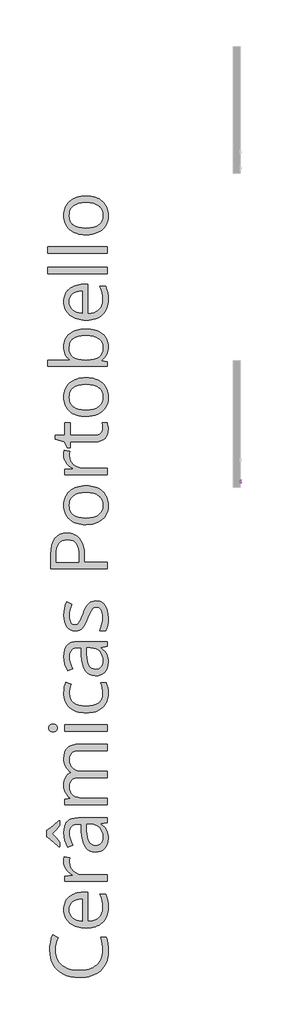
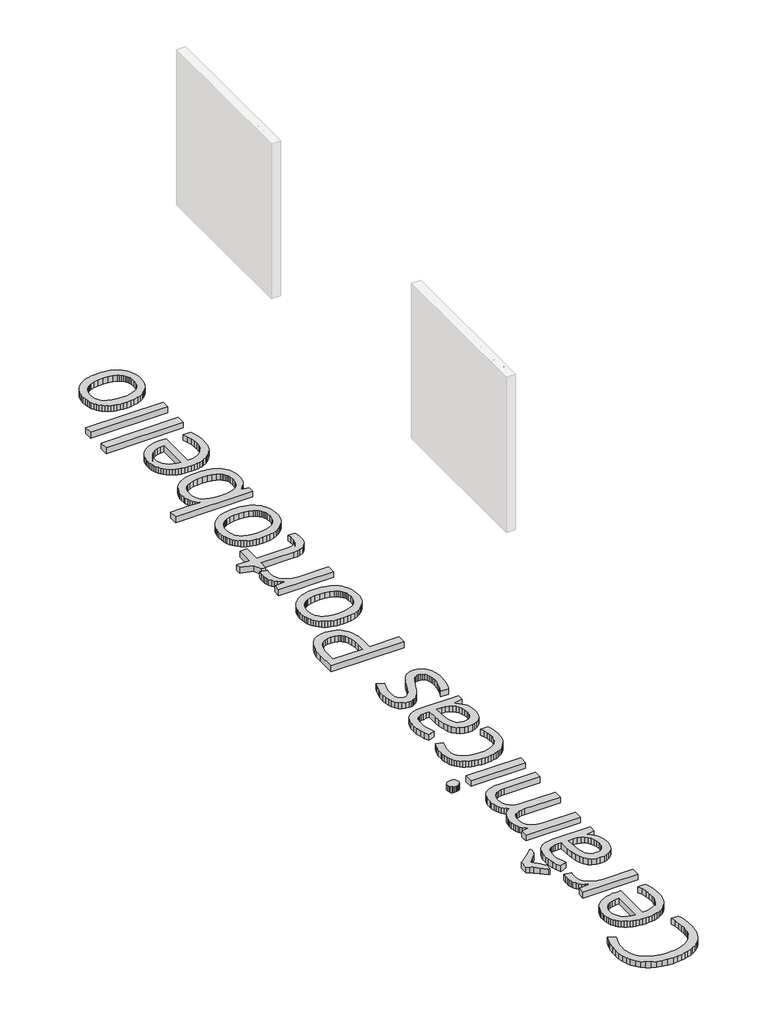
# One storey, part 4 of 7: 2 proxies.
"""IFC4 building model written with IfcOpenShell, lengths in millimetres."""

from ifc_helpers import new_model, si_unit, frame, origin, origin_with_axes, place, context, project, spatial, polyline, outline, extrude, element, save

model = new_model("IFC4")

# Units and contexts
model_context = context("Model", 3, world=origin())
ifc_project = project(units=[si_unit("LENGTHUNIT", "METRE", prefix="MILLI")], contexts=[model_context])

# Site, building, storey
site = spatial("IfcSite", under=ifc_project)
building = spatial("IfcBuilding", under=site)
storey = spatial("IfcBuildingStorey", under=building, Name="PORTOBELLO - SHOWROOM", Elevation=0.0)

# Proxies
placement = place(None, origin())
element("IfcBuildingElementProxy", 1, Name="10mm Arial", ObjectType="10mm Arial", at=placement, inside=storey, context=model_context, shape_type="SweptSolid", body=[
    extrude(outline(polyline([(3753.9778517, 2553.8086596), (3753.9778517, 2654.2649698), (3792.3111556, 2654.2649698), (3811.0854001, 2651.3096511), (3822.1709109, 2642.2229658), (3826.1808246, 2629.3716214), (3822.808573, 2617.6361858), (3812.6182417, 2608.7457042), (3824.9913395, 2599.3769761), (3829.3200843, 2583.754254), (3826.3647656, 2570.2529848), (3819.0439139, 2560.639002), (3808.1178187, 2555.537705), (3792.01685, 2553.8086596), (3753.9778517, 2553.8086596)]), holes=[polyline([(3766.5348905, 2613.4545938), (3789.4662015, 2613.4545938), (3802.8571061, 2614.5337143), (3810.9137218, 2619.1812902), (3813.6237859, 2627.3605332), (3811.0976628, 2635.552039), (3803.8626502, 2640.3958186), (3787.7248934, 2641.707931), (3766.5348905, 2641.707931), (3766.5348905, 2613.4545938)]), polyline([(3766.5348905, 2566.3656984), (3792.2866301, 2566.3656984), (3801.6063073, 2566.8562077), (3809.4912448, 2569.5907972), (3814.7151691, 2575.1703408), (3816.7630455, 2583.6316267), (3814.3595498, 2593.3927623), (3806.5727143, 2599.2175606), (3791.0603568, 2600.897555), (3766.5348905, 2600.897555), (3766.5348905, 2566.3656984)])]), frame((34576.625413, 0.0, 0.0), z_axis=(1.0, 0.0, 0.0), x_axis=(0.0, 1.0, 0.0)), (0.0, 0.0, 1.0), 20.0),
    extrude(outline(polyline([(3845.0163828, 2553.8086596), (3845.0163828, 2627.5812624), (3856.0037917, 2627.5812624), (3856.0037917, 2616.6674299), (3863.80289, 2626.7228711), (3871.6510392, 2629.1508922), (3884.2571289, 2625.2758686), (3880.0632742, 2614.0186795), (3871.2341063, 2616.5938535), (3864.1339838, 2614.1167814), (3859.6090353, 2607.2496508), (3857.5734215, 2592.5834219), (3857.5734215, 2553.8086596), (3845.0163828, 2553.8086596)])), frame((34576.625413, 0.0, 0.0), z_axis=(1.0, 0.0, 0.0), x_axis=(0.0, 1.0, 0.0)), (0.0, 0.0, 1.0), 20.0),
    extrude(outline(polyline([(3939.1941735, 2563.2264387), (3927.0172795, 2554.7161019), (3913.5650612, 2552.2390298), (3903.0712273, 2553.7289519), (3895.330377, 2558.1987181), (3890.5571081, 2564.9861409), (3888.9660185, 2573.4290327), (3891.3695142, 2583.3618466), (3897.6848218, 2590.5723337), (3906.4772014, 2594.692612), (3917.341983, 2596.5810729), (3939.1205971, 2600.897555), (3939.1941735, 2603.6934582), (3935.7360828, 2612.9640844), (3921.8546688, 2616.5938535), (3909.1504773, 2614.178095), (3903.0926871, 2605.6064445), (3890.5356483, 2607.1760744), (3895.9680391, 2619.4388076), (3906.9063971, 2626.6247692), (3923.4733496, 2629.1508922), (3938.6914015, 2626.9190748), (3947.2875774, 2621.3150057), (3951.1380757, 2612.7924062), (3951.7512123, 2601.8049973), (3951.7512123, 2586.1822752), (3952.3888744, 2564.3668729), (3954.890472, 2553.8086596), (3942.3334332, 2553.8086596), (3939.1941735, 2563.2264387)]), holes=[polyline([(3939.1941735, 2588.3405162), (3918.9361383, 2584.490018), (3908.1326704, 2582.4544043), (3903.2398399, 2579.1434664), (3901.5230572, 2574.3119495), (3905.2631909, 2567.5183953), (3916.238337, 2564.7960685), (3928.9425286, 2567.8004382), (3937.1340344, 2575.0722389), (3939.1205971, 2584.7843236), (3939.1941735, 2588.3405162)])]), frame((34576.625413, 0.0, 0.0), z_axis=(1.0, 0.0, 0.0), x_axis=(0.0, 1.0, 0.0)), (0.0, 0.0, 1.0), 20.0),
    extrude(outline(polyline([(3969.0171406, 2553.8086596), (3969.0171406, 2627.5812624), (3981.5741794, 2627.5812624), (3981.5741794, 2617.2805665), (3991.1758995, 2626.1833108), (4004.2847612, 2629.1508922), (4016.1428242, 2626.7596593), (4024.2362281, 2620.4811399), (4028.0008872, 2611.2473018), (4028.6630748, 2599.107196), (4028.6630748, 2553.8086596), (4016.106036, 2553.8086596), (4016.106036, 2597.4149388), (4014.6590335, 2608.524975), (4009.5454738, 2614.3988242), (4000.9247723, 2616.5938535), (3987.3008758, 2611.6642347), (3983.0058535, 2604.5211927), (3981.5741794, 2592.9513039), (3981.5741794, 2553.8086596), (3969.0171406, 2553.8086596)])), frame((34576.625413, 0.0, 0.0), z_axis=(1.0, 0.0, 0.0), x_axis=(0.0, 1.0, 0.0)), (0.0, 0.0, 1.0), 20.0),
    extrude(outline(polyline([(4093.0178985, 2580.492367), (4105.5749372, 2578.9227372), (4102.0739269, 2567.7544529), (4095.4949706, 2559.3146268), (4086.4573362, 2554.007929), (4075.5802919, 2552.2390298), (4062.2231098, 2554.7069048), (4051.7783268, 2562.11053), (4045.0368892, 2574.1249428), (4042.7897434, 2590.4251809), (4046.6279789, 2611.28409), (4058.3266263, 2624.6872574), (4075.4086136, 2629.1508922), (4086.0189435, 2627.6180506), (4094.5016892, 2623.0195257), (4100.5870705, 2615.6005721), (4104.0053074, 2605.6064445), (4091.4482686, 2604.0368147), (4085.6234704, 2613.442331), (4075.5067155, 2616.5938535), (4067.3918518, 2615.0426177), (4060.9508512, 2610.3889105), (4056.7477994, 2602.3813457), (4055.3467822, 2590.7685374), (4056.7171426, 2578.9993792), (4060.8282239, 2570.9642233), (4067.1527285, 2566.3381072), (4075.163359, 2564.7960685), (4086.9968965, 2568.6465668), (4093.0178985, 2580.492367)])), frame((34576.625413, 0.0, 0.0), z_axis=(1.0, 0.0, 0.0), x_axis=(0.0, 1.0, 0.0)), (0.0, 0.0, 1.0), 20.0),
    extrude(outline(polyline([(4113.4230865, 2590.694961), (4116.1392819, 2608.4820555), (4124.287868, 2620.9839119), (4134.355572, 2627.1091472), (4146.4098387, 2629.1508922), (4159.6014739, 2626.6646231), (4170.1382274, 2619.2058156), (4177.0452118, 2607.3630811), (4179.34754, 2591.7250306), (4175.2763126, 2569.3823308), (4163.4182496, 2556.7394529), (4146.4098387, 2552.2390298), (4133.0587879, 2554.7161019), (4122.5342972, 2562.1473182), (4115.7008891, 2574.2383731), (4113.4230865, 2590.694961)]), holes=[polyline([(4125.9801252, 2590.7194865), (4127.4332591, 2579.3549985), (4131.7926607, 2571.2585289), (4138.353223, 2566.4116836), (4146.4098387, 2564.7960685), (4154.4296662, 2566.4208807), (4160.9779657, 2571.2953171), (4165.3373673, 2579.4990856), (4166.7905012, 2591.1118939), (4165.3281703, 2602.1452881), (4160.9411775, 2610.1313931), (4154.3836809, 2614.9782384), (4146.4098387, 2616.5938535), (4138.353223, 2614.9843697), (4131.7926607, 2610.1559186), (4127.4332591, 2602.0778431), (4125.9801252, 2590.7194865)])]), frame((34576.625413, 0.0, 0.0), z_axis=(1.0, 0.0, 0.0), x_axis=(0.0, 1.0, 0.0)), (0.0, 0.0, 1.0), 20.0),
])
element("IfcBuildingElementProxy", 2, Name="1200mm OpenSans", ObjectType="1200mm OpenSans", at=placement, inside=storey, context=model_context, shape_type="SweptSolid", body=[
    extrude(outline(polyline([(30626.5027074, -6209.0740055), (30628.6237547, -6257.2581158), (30634.9868966, -6302.8395068), (30645.5921331, -6345.8181783), (30660.4394642, -6386.1941305), (30679.5288898, -6423.9673632), (30702.8604101, -6459.1378766), (30730.434025, -6491.7056706), (30762.2497345, -6521.6707452), (30797.7554466, -6548.5429779), (30836.3990692, -6571.8322462), (30878.1806025, -6591.5385502), (30923.1000465, -6607.6618898), (30971.157401, -6620.2022651), (31022.3526661, -6629.159676), (31076.6858419, -6634.5341225), (31134.1569282, -6636.3256047), (31193.098382, -6634.5989088), (31248.5977113, -6629.4188212), (31300.6549159, -6620.7853418), (31349.269996, -6608.6984707), (31394.4429516, -6593.1582078), (31436.1737826, -6574.1645532), (31474.462489, -6551.7175068), (31509.3090708, -6525.8170687), (31540.3642454, -6496.722384), (31567.27873, -6464.6925981), (31590.0525247, -6429.7277108), (31608.6856295, -6391.8277222), (31623.1780443, -6350.9926324), (31633.5297691, -6307.2224412), (31639.7408041, -6260.5171487), (31641.811149, -6210.8767549), (31638.9943532, -6145.7749685), (31630.5439655, -6076.3015149), (31616.4599861, -6002.456394), (31596.7424149, -5924.239606), (31713.5605737, -5924.239606), (31732.6471826, -5990.2653015), (31746.2804747, -6063.5921318), (31754.4604499, -6144.2200971), (31757.1871083, -6232.1491973), (31754.6491752, -6296.5974871), (31747.035376, -6357.2600032), (31734.3457105, -6414.1367456), (31716.5801789, -6467.2277144), (31693.7387811, -6516.5329095), (31665.8215171, -6562.0523309), (31632.828387, -6603.7859787), (31594.7593906, -6641.7338528), (31552.0145132, -6675.5354034), (31504.9937395, -6704.8300805), (31453.6970697, -6729.6178843), (31398.1245038, -6749.8988146), (31338.2760417, -6765.6728715), (31274.1516835, -6776.9400551), (31205.7514291, -6783.7003652), (31133.0752786, -6785.9538019), (31042.239245, -6781.6159362), (30957.2170782, -6768.6023393), (30878.008778, -6746.913011), (30804.6143445, -6716.5479514), (30738.1717633, -6677.9916494), (30679.8190198, -6631.7285938), (30629.5561141, -6577.7587847), (30587.3830462, -6516.0822221), (30554.0209158, -6447.6566166), (30530.1908226, -6373.4396787), (30515.8927667, -6293.4314085), (30511.1267481, -6207.631806), (30515.1153311, -6116.1422758), (30527.08108, -6030.6018185), (30547.0239948, -5951.0104341), (30574.9440756, -5877.3681226), (30690.6805847, -5936.4983017), (30662.6027634, -6004.6422276), (30642.5471767, -6072.7861536), (30630.5138247, -6140.9300795), (30626.5027074, -6209.0740055)])), origin_with_axes(), (0.0, 0.0, 1.0), 100.0),
    extrude(outline(polyline([(31757.1871083, -5301.2094259), (31755.2604199, -5349.8329564), (31749.4803548, -5395.8312331), (31739.8469129, -5439.2042561), (31726.3600942, -5479.9520253), (31709.0198988, -5518.0745408), (31687.8263265, -5553.5718025), (31662.7793776, -5586.4438104), (31633.8790518, -5616.6905646), (31601.5591359, -5643.8163089), (31566.2534163, -5667.3252873), (31527.9618931, -5687.2174998), (31486.6845663, -5703.4929464), (31442.4214358, -5716.1516271), (31395.1725017, -5725.1935419), (31344.937764, -5730.6186908), (31291.7172226, -5732.4270737), (31237.9699404, -5730.7482634), (31187.0563549, -5725.7118323), (31138.976466, -5717.3177806), (31093.7302737, -5705.5661082), (31051.3177782, -5690.4568151), (31011.7389792, -5671.9899013), (30974.993877, -5650.1653668), (30941.0824714, -5624.9832116), (30910.6188239, -5596.9729934), (30884.2169961, -5566.6642697), (30861.876988, -5534.0570406), (30843.5987995, -5499.1513061), (30829.3824307, -5461.9470661), (30819.2278816, -5422.4443206), (30813.1351521, -5380.6430698), (30811.1042422, -5336.5433134), (30812.901358, -5295.1983835), (30818.2927053, -5256.0730887), (30827.2782842, -5219.1674291), (30839.8580946, -5184.4814046), (30856.0321365, -5152.0150153), (30875.80041, -5121.7682611), (30899.1629151, -5093.7411421), (30926.1196516, -5067.9336583), (30956.0227567, -5044.7795961), (30988.2243672, -5024.7127423), (31022.7244832, -5007.7330967), (31059.5231046, -4993.8406594), (31098.6202314, -4983.0354304), (31140.0158636, -4975.3174097), (31183.7100013, -4970.6865973), (31229.7026445, -4969.1429931), (31318.7584631, -4969.1429931), (31318.7584631, -5590.7309737), (31393.3021492, -5584.2298088), (31458.2912638, -5568.6923628), (31513.7258067, -5544.1186355), (31537.8601139, -5528.4431664), (31559.6057781, -5510.508627), (31578.8726619, -5490.4783915), (31595.5706279, -5468.5158341), (31621.2598063, -5418.7937532), (31636.6733134, -5361.3423844), (31641.811149, -5296.1617277), (31638.002841, -5223.5334627), (31626.5779169, -5151.3108163), (31607.5363768, -5079.4937885), (31580.8782205, -5008.0823794), (31700.5807783, -5008.0823794), (31726.5854379, -5078.5698795), (31744.027038, -5145.091331), (31753.8970907, -5216.3900684), (31757.1871083, -5301.2094259)]), holes=[polyline([(30926.4802015, -5337.9855129), (30931.0772124, -5389.5103432), (30944.868245, -5435.5593223), (30967.8532994, -5476.1324501), (31000.0323756, -5511.2297268), (31040.3238238, -5540.2652587), (31087.6459946, -5562.6531524), (31141.9988879, -5578.3934078), (31203.3825038, -5587.4860249), (31203.3825038, -5115.5262415), (31140.2412073, -5119.1317402), (31084.9418706, -5129.9482364), (31037.4844936, -5147.97573), (30997.8690763, -5173.2142211), (30966.6364436, -5205.1454192), (30944.3274202, -5243.2510339), (30930.9420062, -5287.5310651), (30926.4802015, -5337.9855129)])]), origin_with_axes(), (0.0, 0.0, 1.0), 100.0),
    extrude(outline(polyline([(30811.1042422, -4321.9559715), (30813.3576789, -4264.4482668), (30820.1179891, -4213.06991), (30938.7388972, -4232.1790532), (30929.5448754, -4285.3601595), (30926.4802015, -4331.6908181), (30932.1250605, -4385.0183977), (30949.0596373, -4434.3123256), (30977.283932, -4479.5726019), (31016.7979446, -4520.7992264), (31064.7398105, -4555.1078002), (31118.2476651, -4579.6139244), (31177.3215083, -4594.3175989), (31241.9613402, -4599.2188237), (31734.1119165, -4599.2188237), (31734.1119165, -4735.5066756), (30834.1794341, -4735.5066756), (30834.1794341, -4623.0151153), (30995.7057771, -4607.5114708), (30995.7057771, -4601.021573), (30953.9045262, -4574.3183481), (30917.1960423, -4545.0462053), (30885.5803253, -4513.2051447), (30859.0573753, -4478.7951662), (30838.0778796, -4442.2218885), (30823.0925255, -4403.8909301), (30814.1013131, -4363.8022911), (30811.1042422, -4321.9559715)])), origin_with_axes(), (0.0, 0.0, 1.0), 100.0),
    extrude(outline(polyline([(31734.1119165, -3482.5958678), (31602.5112129, -3509.9976581), (31602.5112129, -3516.8481057), (31644.1096545, -3550.8862671), (31678.4069611, -3584.8568254), (31705.4031328, -3618.7597807), (31725.0981696, -3652.5951328), (31739.1370803, -3688.5036467), (31749.1648736, -3728.6260872), (31755.1815497, -3772.9624544), (31757.1871083, -3821.5127482), (31752.7140365, -3885.6230224), (31739.2948209, -3942.387093), (31716.9294616, -3991.8049599), (31685.6179586, -4033.8766232), (31646.0588772, -4067.4753645), (31598.9507829, -4091.4744654), (31544.2936756, -4105.8739259), (31482.0875554, -4110.6737461), (31415.5379359, -4103.7669626), (31357.4049025, -4083.0466121), (31307.6884552, -4048.5126946), (31266.388594, -4000.1652101), (31233.5053189, -3938.0041586), (31209.0386299, -3862.0295401), (31192.988527, -3772.2413546), (31185.3550101, -3668.6396021), (31180.3073119, -3513.9637067), (31126.224831, -3513.9637067), (31078.5308432, -3516.8481057), (31037.4844936, -3525.5013026), (31003.0857823, -3539.9232976), (30975.3347093, -3560.1140904), (30953.9608621, -3586.6595748), (30938.6938285, -3620.1456442), (30929.5336082, -3660.5722987), (30926.4802015, -3707.9395383), (30930.8068, -3766.9345112), (30943.7865954, -3829.6251203), (30965.4195878, -3896.0113656), (30995.7057771, -3966.0932471), (30890.4252142, -4008.6381321), (30857.2996947, -3938.0604945), (30832.1964098, -3861.1732342), (30816.3772841, -3780.9508875), (30811.1042422, -3700.3679909), (30815.6111156, -3624.1680288), (30829.1317359, -3558.5366847), (30851.6661029, -3503.4739589), (30866.3134415, -3479.9058277), (30883.2142168, -3458.9798511), (30902.599406, -3440.600258), (30924.6999865, -3424.6712773), (30949.5159582, -3411.192909), (30977.0473212, -3400.1651531), (31040.2562207, -3385.4614786), (31114.3266852, -3380.5602538), (31734.1119165, -3380.5602538), (31734.1119165, -3482.5958678)]), holes=[polyline([(31641.811149, -3794.4715077), (31637.450749, -3733.2230981), (31624.3695489, -3678.9152735), (31602.5675488, -3631.548034), (31572.0447487, -3591.1213795), (31533.6799888, -3558.7845628), (31488.3521095, -3535.6868366), (31436.0611107, -3521.8282008), (31376.8069926, -3517.2086556), (31295.6832712, -3517.2086556), (31301.4520692, -3656.0203566), (31306.7701798, -3732.8400138), (31316.9557137, -3798.1671439), (31332.0086709, -3852.0017468), (31351.9290514, -3894.3438225), (31377.3703517, -3926.365158), (31408.9860687, -3949.2375406), (31446.7762023, -3962.9609701), (31490.7407524, -3967.5354466), (31525.4887463, -3964.6848492), (31555.8200044, -3956.1330569), (31581.7345265, -3941.8800698), (31603.2323127, -3921.9258877), (31620.1105536, -3896.8564044), (31632.1664399, -3867.2575133), (31639.3999718, -3833.1292144), (31641.811149, -3794.4715077)])]), origin_with_axes(), (0.0, 0.0, 1.0), 100.0),
    extrude(outline(polyline([(30699.3337817, -3992.4133879), (30599.8220168, -3904.078669), (30530.5964412, -3846.7512393), (30481.3813836, -3810.696252), (30441.9011725, -3786.1788606), (30441.9011725, -3650.2515586), (30482.4630332, -3625.5989611), (30533.4808402, -3587.6961557), (30603.0669657, -3528.7011828), (30699.3337817, -3440.7720826), (30718.8034748, -3440.7720826), (30718.8034748, -3538.1205482), (30691.0862033, -3576.4740409), (30655.1664223, -3619.4245445), (30558.7193313, -3719.1165843), (30656.4283468, -3819.6198613), (30692.0326468, -3861.6915246), (30718.8034748, -3898.3098711), (30718.8034748, -3992.4133879), (30699.3337817, -3992.4133879)])), origin_with_axes(), (0.0, 0.0, 1.0), 100.0),
    extrude(outline(polyline([(31734.1119165, -1947.0139598), (31143.5312249, -1947.0139598), (31092.6598913, -1949.8983588), (31048.5714022, -1958.5515557), (31011.2657575, -1972.9735506), (30980.7429574, -1993.1643435), (30957.0030017, -2019.4394155), (30940.0458905, -2052.1142477), (30929.8716238, -2091.1888401), (30926.4802015, -2136.6631928), (30931.0884796, -2196.3116624), (30944.9133138, -2247.6224162), (30967.9547041, -2290.5954541), (31000.2126505, -2325.2307763), (31042.0477029, -2351.8889325), (31093.8204112, -2370.9304726), (31155.5307754, -2382.3553967), (31227.1787954, -2386.1637048), (31734.1119165, -2386.1637048), (31734.1119165, -2522.8121065), (31143.5312249, -2522.8121065), (31092.6598913, -2525.6965055), (31048.5714022, -2534.3497025), (31011.2657575, -2548.7716974), (30980.7429574, -2568.9624903), (30957.0030017, -2595.282631), (30940.0458905, -2628.0926694), (30929.8716238, -2667.3926055), (30926.4802015, -2713.1824394), (30931.3250904, -2773.2365275), (30945.8597572, -2824.6824875), (30970.0842017, -2867.5203193), (30985.8300907, -2885.7111871), (31003.9984242, -2901.7500228), (31048.931952, -2927.9349573), (31106.2143131, -2946.638482), (31175.8455072, -2957.8605967), (31257.8255346, -2961.6013017), (31734.1119165, -2961.6013017), (31734.1119165, -3097.8891536), (30834.1794341, -3097.8891536), (30834.1794341, -2986.8397928), (30949.5553934, -2964.8462505), (30949.5553934, -2958.3563528), (30918.7171121, -2936.9149026), (30891.4617951, -2911.5299381), (30867.7894425, -2882.2014594), (30847.7000543, -2848.9294664), (30831.6893865, -2812.6378683), (30820.2531953, -2774.250574), (30813.3914805, -2733.7675837), (30811.1042422, -2691.1888971), (30813.4703508, -2640.5654415), (30820.5686764, -2594.5164625), (30832.3992191, -2553.0419599), (30848.9619789, -2516.1419339), (30870.2569557, -2483.8163844), (30896.2841497, -2456.0653114), (30927.0435607, -2432.8887148), (30962.5351888, -2414.2865948), (30962.5351888, -2407.7966971), (30929.3871349, -2385.3412004), (30899.8896484, -2358.3562958), (30874.0427294, -2326.8419835), (30851.8463779, -2290.7982634), (30834.0216935, -2251.1490446), (30821.2897761, -2208.8182361), (30813.6506257, -2163.8058379), (30811.1042422, -2116.1118501), (30816.0392686, -2044.3060895), (30830.8443478, -1982.1225036), (30841.9481571, -1954.6390262), (30855.5194797, -1929.5610925), (30871.5583154, -1906.8887024), (30890.0646644, -1886.6218561), (30911.2864045, -1868.7492862), (30935.471414, -1853.2597257), (30962.6196927, -1840.1531744), (30992.7312406, -1829.4296325), (31061.8441444, -1815.1315766), (31142.8101252, -1810.365558), (31734.1119165, -1810.365558), (31734.1119165, -1947.0139598)])), origin_with_axes(), (0.0, 0.0, 1.0), 100.0),
    extrude(outline(polyline([(31734.1119165, -1396.4543041), (31734.1119165, -1532.742156), (30834.1794341, -1532.742156), (30834.1794341, -1396.4543041), (31734.1119165, -1396.4543041)])), origin_with_axes(), (0.0, 0.0, 1.0), 100.0),
    extrude(outline(polyline([(30579.9917738, -1544.2797519), (30557.7841551, -1542.8375524), (30538.7538821, -1538.5109539), (30522.9009549, -1531.2999565), (30510.2253734, -1521.2045601), (30493.5950105, -1495.2449692), (30488.0515563, -1463.5165804), (30493.685148, -1432.9599787), (30510.5859233, -1406.9102504), (30523.3741766, -1396.4993728), (30539.2045694, -1389.0630317), (30558.0771019, -1384.601227), (30579.9917738, -1383.1139588), (30601.9289801, -1384.601227), (30620.8691156, -1389.0630317), (30636.8121803, -1396.4993728), (30649.7581742, -1406.9102504), (30666.9293619, -1432.9599787), (30672.6530911, -1463.5165804), (30666.9293619, -1495.2449692), (30659.7747003, -1508.9458644), (30649.7581742, -1521.2045601), (30636.8121803, -1531.2999565), (30620.8691156, -1538.5109539), (30601.9289801, -1542.8375524), (30579.9917738, -1544.2797519)])), origin_with_axes(), (0.0, 0.0, 1.0), 100.0),
    extrude(outline(polyline([(31757.1871083, -726.5526405), (31755.2801375, -774.4663385), (31749.5592251, -819.5970421), (31740.024371, -861.9447513), (31726.6755753, -901.5094663), (31709.512838, -938.2911869), (31688.5361591, -972.2899132), (31663.7455386, -1003.5056451), (31635.1409764, -1031.9383827), (31603.0492209, -1057.2895457), (31567.7970205, -1079.2605535), (31529.384375, -1097.8514064), (31487.8112846, -1113.0621041), (31443.0777493, -1124.8926468), (31395.1837689, -1133.3430345), (31344.1293436, -1138.413267), (31289.9144732, -1140.1033446), (31234.3024722, -1138.3879159), (31181.9410535, -1133.2416298), (31132.8302174, -1124.6644863), (31086.9699636, -1112.6564855), (31044.3602923, -1097.2176273), (31005.0012035, -1078.3479117), (30968.8926971, -1056.0473387), (30936.0347731, -1030.3159083), (30906.75418, -1001.4127658), (30881.3776659, -969.5970563), (30859.9052309, -934.8687799), (30842.336875, -897.2279365), (30828.6725981, -856.6745262), (30818.9124004, -813.208549), (30813.0562818, -766.8300048), (30811.1042422, -717.5388937), (30814.4393286, -651.9638856), (30824.4445875, -586.479015), (30838.9567199, -528.1150043), (30855.8124265, -483.9025762), (30968.6645366, -526.0869113), (30952.1243112, -573.9048382), (30938.5586222, -625.7789511), (30929.4998067, -676.5714144), (30926.4802015, -721.1443924), (30932.1194269, -786.1278734), (30949.0371029, -842.4468902), (30977.2332297, -890.101443), (31016.7078072, -929.0915315), (31067.4608353, -959.417156), (31129.4923142, -981.0783163), (31202.8022438, -994.0750125), (31287.3906241, -998.4072446), (31368.0411238, -994.1820508), (31438.7314332, -981.5064693), (31499.4615524, -960.3805002), (31550.2314814, -930.8041434), (31571.695466, -912.8865048), (31590.297586, -892.9351396), (31606.0378414, -870.9500478), (31618.9162321, -846.9312293), (31628.9327583, -820.8786842), (31636.0874198, -792.7924125), (31641.811149, -730.5186891), (31638.7690095, -673.2137937), (31629.6425908, -615.2328673), (31614.4318931, -556.5759099), (31593.1369162, -497.2429215), (31711.7578244, -497.2429215), (31731.6331361, -545.7819481), (31745.8297873, -600.1799101), (31754.3477781, -660.4368076), (31757.1871083, -726.5526405)])), origin_with_axes(), (0.0, 0.0, 1.0), 100.0),
    extrude(outline(polyline([(31734.1119165, 278.6604047), (31602.5112129, 251.2586144), (31602.5112129, 244.4081668), (31644.1096545, 210.3700054), (31678.4069611, 176.399447), (31705.4031328, 142.4964918), (31725.0981696, 108.6611397), (31739.1370803, 72.7526258), (31749.1648736, 32.6301853), (31755.1815497, -11.7061819), (31757.1871083, -60.2564757), (31752.7140365, -124.3667499), (31739.2948209, -181.1308205), (31716.9294616, -230.5486875), (31685.6179586, -272.6203507), (31646.0588772, -306.219092), (31598.9507829, -330.2181929), (31544.2936756, -344.6176535), (31482.0875554, -349.4174736), (31415.5379359, -342.5106901), (31357.4049025, -321.7903396), (31307.6884552, -287.2564221), (31266.388594, -238.9089376), (31233.5053189, -176.7478861), (31209.0386299, -100.7732676), (31192.988527, -10.9850821), (31185.3550101, 92.6166704), (31180.3073119, 247.2925658), (31126.224831, 247.2925658), (31078.5308432, 244.4081668), (31037.4844936, 235.7549698), (31003.0857823, 221.3329749), (30975.3347093, 201.142182), (30953.9608621, 174.5966977), (30938.6938285, 141.1106282), (30929.5336082, 100.6839738), (30926.4802015, 53.3167342), (30930.8068, -5.6782387), (30943.7865954, -68.3688478), (30965.4195878, -134.7550931), (30995.7057771, -204.8369747), (30890.4252142, -247.3818596), (30857.2996947, -176.8042221), (30832.1964098, -99.9169617), (30816.3772841, -19.694615), (30811.1042422, 60.8882816), (30815.6111156, 137.0882437), (30829.1317359, 202.7195877), (30851.6661029, 257.7823136), (30866.3134415, 281.3504448), (30883.2142168, 302.2764214), (30902.599406, 320.6560145), (30924.6999865, 336.5849952), (30949.5159582, 350.0633635), (30977.0473212, 361.0911193), (31040.2562207, 375.7947938), (31114.3266852, 380.6960187), (31734.1119165, 380.6960187), (31734.1119165, 278.6604047)]), holes=[polyline([(31641.811149, -33.2152352), (31637.450749, 28.0331744), (31624.3695489, 82.340999), (31602.5675488, 129.7082385), (31572.0447487, 170.134893), (31533.6799888, 202.4717097), (31488.3521095, 225.5694359), (31436.0611107, 239.4280717), (31376.8069926, 244.0476169), (31295.6832712, 244.0476169), (31301.4520692, 105.2359159), (31306.7701798, 28.4162586), (31316.9557137, -36.9108714), (31332.0086709, -90.7454743), (31351.9290514, -133.08755), (31377.3703517, -165.1088856), (31408.9860687, -187.9812681), (31446.7762023, -201.7046976), (31490.7407524, -206.2791742), (31525.4887463, -203.4285767), (31555.8200044, -194.8767844), (31581.7345265, -180.6237973), (31603.2323127, -160.6696153), (31620.1105536, -135.6001319), (31632.1664399, -106.0012408), (31639.3999718, -71.8729419), (31641.811149, -33.2152352)])]), origin_with_axes(), (0.0, 0.0, 1.0), 100.0),
    extrude(outline(polyline([(31491.4618521, 1248.1790125), (31551.6173449, 1242.2862755), (31578.9487154, 1234.9203543), (31604.4491685, 1224.6080646), (31628.1187043, 1211.3494064), (31649.9573227, 1195.1443797), (31669.9650239, 1175.9929845), (31688.1418077, 1153.8952208), (31718.3491267, 1102.0098407), (31739.9257832, 1040.637492), (31752.871777, 969.7781748), (31757.1871083, 889.4318891), (31753.6266783, 804.4097223), (31742.9453883, 729.2576082), (31725.1432384, 663.9755468), (31700.2202284, 608.5635383), (31572.5855735, 608.5635383), (31601.2943571, 676.2567769), (31623.2428306, 748.8174387), (31637.1690694, 822.3696128), (31641.811149, 893.0373878), (31639.6703842, 943.818584), (31633.2480896, 988.3577605), (31622.5442652, 1026.6549172), (31607.5589111, 1058.7100544), (31588.1793555, 1084.0274157), (31564.2929264, 1102.1112453), (31535.8996239, 1112.961543), (31502.999448, 1116.5783089), (31477.2877352, 1113.7051772), (31453.513978, 1105.0857818), (31431.6781763, 1090.7201228), (31411.7803302, 1070.6082002), (31391.995156, 1042.1810961), (31370.4973698, 1002.8698928), (31322.3639618, 891.5951884), (31277.8360525, 783.3400891), (31239.4374911, 711.6808019), (31201.7149606, 665.1247995), (31181.0622132, 646.9508325), (31159.2151444, 632.1795549), (31135.6554636, 620.7433636), (31109.8648805, 612.5746556), (31081.8433951, 607.6734308), (31051.5910074, 606.0396891), (30998.8155197, 611.6732809), (30951.8989675, 628.5740562), (30910.8413508, 656.742015), (30875.6426695, 696.1771573), (30847.4071075, 745.4372837), (30827.238849, 803.0801946), (30815.1378939, 869.10589), (30811.1042422, 943.51437), (30814.8449472, 1016.142635), (30826.067062, 1088.0047315), (30844.7705866, 1159.1006596), (30870.9555211, 1229.4304191), (30982.3654318, 1180.3956364), (30957.9156435, 1113.69391), (30940.4515091, 1050.2371324), (30929.9730284, 990.0253036), (30926.4802015, 933.0584237), (30928.4068899, 887.2009868), (30934.186955, 847.3376915), (30943.820397, 813.4685378), (30957.3072156, 785.5935258), (30974.1967237, 763.8253272), (30994.0382339, 748.2766139), (31016.8317462, 738.947386), (31042.5772605, 735.8376433), (31076.6041548, 740.4797229), (31105.1326635, 754.4059618), (31130.2810171, 778.6980095), (31154.1674462, 814.4375156), (31182.6959548, 874.9197567), (31221.7705473, 973.4400095), (31251.3807056, 1047.4992068), (31281.0810014, 1108.5110055), (31310.8714346, 1156.4754058), (31340.7520053, 1191.3924075), (31372.6156003, 1216.2365472), (31408.3551064, 1233.9823613), (31447.9705237, 1244.6298497), (31491.4618521, 1248.1790125)])), origin_with_axes(), (0.0, 0.0, 1.0), 100.0),
    extrude(outline(polyline([(30877.8059687, 2693.2629025), (30921.2268772, 2691.3136797), (30962.0732343, 2685.4660115), (31000.3450399, 2675.7198977), (31036.0422941, 2662.0753385), (31069.1649969, 2644.5323337), (31099.7131482, 2623.0908835), (31127.6867481, 2597.7509877), (31153.0857965, 2568.5126465), (31175.6905835, 2535.6406386), (31195.2813988, 2499.3997428), (31211.8582426, 2459.7899591), (31225.4211148, 2416.8112875), (31235.9700153, 2370.4637281), (31243.5049443, 2320.7472808), (31248.0259017, 2267.6619456), (31249.5328875, 2211.2077226), (31249.5328875, 2069.5116226), (31734.1119165, 2069.5116226), (31734.1119165, 1929.9788219), (30534.20194, 1929.9788219), (30534.20194, 2242.2150117), (30539.5707529, 2347.9293611), (30555.6771918, 2439.5484639), (30582.5212565, 2517.0723201), (30620.1029471, 2580.5009298), (30668.4222637, 2629.8342928), (30727.4792061, 2665.0724093), (30797.2737745, 2686.2152792), (30877.8059687, 2693.2629025)]), holes=[polyline([(31134.1569282, 2069.5116226), (31134.1569282, 2195.7040781), (31130.4387577, 2282.4613912), (31119.284246, 2356.3290464), (31100.6933931, 2417.3070436), (31074.6661992, 2465.3953829), (31058.6667986, 2484.9157783), (31040.4139613, 2501.8334544), (31019.9076873, 2516.1484111), (30997.1479766, 2527.8606483), (30944.868245, 2543.4769647), (30883.5747667, 2548.6824035), (30828.219094, 2543.7811787), (30780.4124343, 2529.0775042), (30740.1547876, 2504.57138), (30707.4461538, 2470.2628062), (30682.1287924, 2425.6109579), (30664.0449629, 2370.0750103), (30653.1946652, 2303.6549634), (30649.5778992, 2226.3508173), (30649.5778992, 2069.5116226), (31134.1569282, 2069.5116226)])]), origin_with_axes(), (0.0, 0.0, 1.0), 100.0),
    extrude(outline(polyline([(31283.4245755, 3700.6392469), (31337.6901482, 3698.9069174), (31388.8966805, 3693.709929), (31437.0441725, 3685.0482817), (31482.1326241, 3672.9219754), (31524.1620355, 3657.3310102), (31563.1324065, 3638.2753861), (31599.0437372, 3615.755103), (31631.8960275, 3589.770161), (31661.2611246, 3560.7374459), (31686.7108754, 3529.0738434), (31708.2452799, 3494.7793536), (31725.8643381, 3457.8539764), (31739.5680501, 3418.2977118), (31749.3564158, 3376.1105599), (31755.2294352, 3331.2925206), (31757.1871083, 3283.843594), (31753.5928768, 3225.152835), (31742.8101821, 3169.8647655), (31724.8390244, 3117.9793854), (31699.6794036, 3069.4966947), (31667.8045414, 3025.3856712), (31629.6876596, 2986.6152927), (31585.328758, 2953.1855592), (31534.7278368, 2925.0964706), (31478.7299347, 2902.8550504), (31418.1800905, 2886.9683216), (31353.0783041, 2877.4362843), (31283.4245755, 2874.2589386), (31229.1702701, 2875.9771841), (31177.9975393, 2881.1319205), (31129.9063832, 2889.723148), (31084.8968018, 2901.7508664), (31042.9687952, 2917.2150758), (31004.1223632, 2936.1157761), (30968.3575059, 2958.4529675), (30935.6742233, 2984.2266498), (30906.478134, 3013.0537388), (30881.1748566, 3044.5511504), (30859.7643911, 3078.7188844), (30842.2467375, 3115.5569409), (30828.6218958, 3155.0653199), (30818.889866, 3197.2440215), (30813.0506482, 3242.0930455), (30811.1042422, 3289.612392), (30813.0957169, 3335.5458824), (30819.070141, 3379.062562), (30829.0275144, 3420.1624307), (30842.9678372, 3458.8454885), (30860.8911094, 3495.1117355), (30882.797331, 3528.9611716), (30908.6865019, 3560.3937968), (30938.5586222, 3589.4096112), (30971.8277984, 3615.4790571), (31007.9081368, 3638.0725768), (31046.7996376, 3657.1901705), (31088.5023006, 3672.831838), (31133.0161259, 3684.9975794), (31180.3411135, 3693.6873947), (31230.4772634, 3698.9012839), (31283.4245755, 3700.6392469)]), holes=[polyline([(31282.3429259, 3015.9550386), (31364.9088468, 3020.2591027), (31437.0188213, 3033.171295), (31498.6728496, 3054.6916155), (31525.5788838, 3068.6798239), (31549.8709315, 3084.8200643), (31571.41942, 3103.0447336), (31590.0947767, 3123.2862288), (31605.8970016, 3145.5445499), (31618.8260947, 3169.8196968), (31628.8820559, 3196.1116695), (31636.0648854, 3224.4204681), (31641.811149, 3287.0885429), (31636.0874198, 3349.779152), (31628.9327583, 3378.1161186), (31618.9162321, 3404.4475265), (31606.0378414, 3428.7733757), (31590.297586, 3451.0936662), (31571.695466, 3471.4083981), (31550.2314814, 3489.7175714), (31526.0126704, 3505.9423156), (31499.1460713, 3520.0037607), (31437.4695087, 3541.636753), (31365.2017935, 3554.6165485), (31282.3429259, 3558.9431469), (31200.329097, 3554.6165485), (31128.7937489, 3541.636753), (31067.7368813, 3520.0037607), (31041.1378778, 3505.9423156), (31017.1584945, 3489.7175714), (30995.9057696, 3471.3802302), (30977.4867413, 3450.9809944), (30961.9014097, 3428.5198641), (30949.1497748, 3403.9968391), (30939.2318365, 3377.4119196), (30932.1475948, 3348.7651055), (30926.4802015, 3285.2857935), (30932.0687245, 3222.6740547), (30939.0543783, 3194.435676), (30948.8342936, 3168.2422911), (30961.4084704, 3144.0939), (30976.7769088, 3121.9905027), (30994.9396086, 3101.9320992), (31015.89657, 3083.9186896), (31039.6196249, 3067.9897089), (31066.0806054, 3054.1845923), (31127.2163432, 3032.9459513), (31199.3037833, 3020.2027668), (31282.3429259, 3015.9550386)])]), origin_with_axes(), (0.0, 0.0, 1.0), 100.0),
    extrude(outline(polyline([(30811.1042422, 4354.3161662), (30813.3576789, 4411.8238709), (30820.1179891, 4463.2022278), (30938.7388972, 4444.0930845), (30929.5448754, 4390.9119783), (30926.4802015, 4344.5813196), (30932.1250605, 4291.25374), (30949.0596373, 4241.9598121), (30977.283932, 4196.6995359), (31016.7979446, 4155.4729114), (31064.7398105, 4121.1643376), (31118.2476651, 4096.6582134), (31177.3215083, 4081.9545389), (31241.9613402, 4077.0533141), (31734.1119165, 4077.0533141), (31734.1119165, 3940.7654622), (30834.1794341, 3940.7654622), (30834.1794341, 4053.2570225), (30995.7057771, 4068.760667), (30995.7057771, 4075.2505647), (30953.9045262, 4101.9537896), (30917.1960423, 4131.2259324), (30885.5803253, 4163.0669931), (30859.0573753, 4197.4769716), (30838.0778796, 4234.0502493), (30823.0925255, 4272.3812076), (30814.1013131, 4312.4698466), (30811.1042422, 4354.3161662)])), origin_with_axes(), (0.0, 0.0, 1.0), 100.0),
    extrude(outline(polyline([(31641.811149, 4926.8693641), (31636.4029009, 4997.5371392), (31625.2258549, 5051.6196201), (31731.9486172, 5051.6196201), (31741.8637387, 5023.9474174), (31749.9761109, 4985.6389934), (31755.384359, 4944.2658955), (31757.1871083, 4907.399671), (31752.9055786, 4845.5428335), (31740.0609894, 4791.9335742), (31718.6533407, 4746.5718934), (31688.6826325, 4709.4577909), (31650.1488648, 4680.5912667), (31603.0520377, 4659.9723208), (31547.3921511, 4647.6009533), (31483.169205, 4643.4771641), (30949.5553934, 4643.4771641), (30949.5553934, 4512.9581102), (30882.1325672, 4512.9581102), (30823.7234878, 4642.7560644), (30626.5027074, 4700.8045939), (30626.5027074, 4780.1255659), (30834.1794341, 4780.1255659), (30834.1794341, 5045.1297224), (30949.5553934, 5045.1297224), (30949.5553934, 4780.1255659), (31474.876558, 4780.1255659), (31512.9033023, 4782.5705447), (31546.220364, 4789.9054812), (31574.827743, 4802.1303753), (31598.7254392, 4819.2452271), (31617.5754373, 4840.6416086), (31631.0397216, 4865.711092), (31639.1182922, 4894.4536771), (31641.811149, 4926.8693641)])), origin_with_axes(), (0.0, 0.0, 1.0), 100.0),
    extrude(outline(polyline([(31283.4245755, 6008.1584325), (31337.6901482, 6006.426103), (31388.8966805, 6001.2291146), (31437.0441725, 5992.5674673), (31482.1326241, 5980.441161), (31524.1620355, 5964.8501958), (31563.1324065, 5945.7945717), (31599.0437372, 5923.2742886), (31631.8960275, 5897.2893466), (31661.2611246, 5868.2566315), (31686.7108754, 5836.593029), (31708.2452799, 5802.2985391), (31725.8643381, 5765.3731619), (31739.5680501, 5725.8168974), (31749.3564158, 5683.6297455), (31755.2294352, 5638.8117062), (31757.1871083, 5591.3627796), (31753.5928768, 5532.6720206), (31742.8101821, 5477.3839511), (31724.8390244, 5425.4985709), (31699.6794036, 5377.0158802), (31667.8045414, 5332.9048568), (31629.6876596, 5294.1344782), (31585.328758, 5260.7047447), (31534.7278368, 5232.6156562), (31478.7299347, 5210.3742359), (31418.1800905, 5194.4875072), (31353.0783041, 5184.9554699), (31283.4245755, 5181.7781242), (31229.1702701, 5183.4963696), (31177.9975393, 5188.6511061), (31129.9063832, 5197.2423335), (31084.8968018, 5209.270052), (31042.9687952, 5224.7342613), (31004.1223632, 5243.6349617), (30968.3575059, 5265.972153), (30935.6742233, 5291.7458353), (30906.478134, 5320.5729244), (30881.1748566, 5352.0703359), (30859.7643911, 5386.23807), (30842.2467375, 5423.0761265), (30828.6218958, 5462.5845055), (30818.889866, 5504.763207), (30813.0506482, 5549.612231), (30811.1042422, 5597.1315776), (30813.0957169, 5643.065068), (30819.070141, 5686.5817475), (30829.0275144, 5727.6816162), (30842.9678372, 5766.3646741), (30860.8911094, 5802.630921), (30882.797331, 5836.4803571), (30908.6865019, 5867.9129824), (30938.5586222, 5896.9287967), (30971.8277984, 5922.9982426), (31007.9081368, 5945.5917624), (31046.7996376, 5964.709356), (31088.5023006, 5980.3510236), (31133.0161259, 5992.516765), (31180.3411135, 6001.2065803), (31230.4772634, 6006.4204694), (31283.4245755, 6008.1584325)]), holes=[polyline([(31282.3429259, 5323.4742241), (31364.9088468, 5327.7782882), (31437.0188213, 5340.6904806), (31498.6728496, 5362.2108011), (31525.5788838, 5376.1990094), (31549.8709315, 5392.3392498), (31571.41942, 5410.5639192), (31590.0947767, 5430.8054144), (31605.8970016, 5453.0637354), (31618.8260947, 5477.3388823), (31628.8820559, 5503.6308551), (31636.0648854, 5531.9396537), (31641.811149, 5594.6077284), (31636.0874198, 5657.2983376), (31628.9327583, 5685.6353041), (31618.9162321, 5711.966712), (31606.0378414, 5736.2925613), (31590.297586, 5758.6128518), (31571.695466, 5778.9275837), (31550.2314814, 5797.2367569), (31526.0126704, 5813.4615012), (31499.1460713, 5827.5229462), (31437.4695087, 5849.1559386), (31365.2017935, 5862.135734), (31282.3429259, 5866.4623325), (31200.329097, 5862.135734), (31128.7937489, 5849.1559386), (31067.7368813, 5827.5229462), (31041.1378778, 5813.4615012), (31017.1584945, 5797.2367569), (30995.9057696, 5778.8994157), (30977.4867413, 5758.50018), (30961.9014097, 5736.0390496), (30949.1497748, 5711.5160247), (30939.2318365, 5684.9311052), (30932.1475948, 5656.2842911), (30926.4802015, 5592.8049791), (30932.0687245, 5530.1932402), (30939.0543783, 5501.9548615), (30948.8342936, 5475.7614766), (30961.4084704, 5451.6130856), (30976.7769088, 5429.5096883), (30994.9396086, 5409.4512848), (31015.89657, 5391.4378752), (31039.6196249, 5375.5088944), (31066.0806054, 5361.7037778), (31127.2163432, 5340.4651369), (31199.3037833, 5327.7219523), (31282.3429259, 5323.4742241)])]), origin_with_axes(), (0.0, 0.0, 1.0), 100.0),
    extrude(outline(polyline([(30811.1042422, 6669.4068991), (30813.0281138, 6712.9517466), (30818.7997286, 6753.9896458), (30828.4190865, 6792.5205967), (30841.8861876, 6828.5445992), (30859.2010319, 6862.0616534), (30880.3636194, 6893.0717592), (30905.37395, 6921.5749167), (30934.2320238, 6947.5711259), (30966.6054588, 6970.76744), (31002.1618732, 6990.8709122), (31040.901267, 7007.8815425), (31082.8236401, 7021.799331), (31127.9289925, 7032.6242775), (31176.2173243, 7040.3563822), (31227.6886354, 7044.9956451), (31282.3429259, 7046.542066), (31337.1070714, 7044.9815611), (31388.7276727, 7040.3000463), (31437.2047298, 7032.4975217), (31482.5382428, 7021.5739873), (31524.7282115, 7007.529443), (31563.774636, 6990.3638889), (31599.6775163, 6970.077325), (31632.4368523, 6946.6697512), (31661.6751936, 6920.4960839), (31687.0150893, 6891.9112393), (31708.4565396, 6860.9152174), (31725.9995443, 6827.5080183), (31739.6441036, 6791.6896419), (31749.3902173, 6753.4600882), (31755.2378856, 6712.8193572), (31757.1871083, 6669.767449), (31755.1252137, 6626.3775252), (31748.93953, 6584.9030227), (31738.6300571, 6545.3439413), (31724.196795, 6507.7002812), (31705.4820031, 6472.512867), (31682.327941, 6440.3225237), (31654.7346085, 6411.1292512), (31622.7020058, 6384.9330495), (31622.7020058, 6374.8376531), (31734.1119165, 6345.9936632), (31734.1119165, 6248.2846477), (30464.9763644, 6248.2846477), (30464.9763644, 6384.5724996), (30766.0355081, 6384.5724996), (30862.1220492, 6382.9500252), (30947.752644, 6378.0826019), (30947.752644, 6384.5724996), (30915.7256748, 6410.0814031), (30887.9689682, 6438.4747056), (30864.4825242, 6469.7524071), (30845.2663427, 6503.9145075), (30830.3204237, 6540.9610069), (30819.6447673, 6580.8919053), (30813.2393735, 6623.7072027), (30811.1042422, 6669.4068991)]), holes=[polyline([(30926.4802015, 6650.2977558), (30931.5729685, 6584.5762744), (30946.8512693, 6528.74738), (30958.309995, 6504.542653), (30972.3151041, 6482.8110728), (30988.8665967, 6463.5526393), (31007.9644728, 6446.7673527), (31030.0763204, 6432.190434), (31055.6697278, 6419.5571045), (31117.3012217, 6400.1212129), (31192.8589544, 6388.4596779), (31282.3429259, 6384.5724996), (31372.0860427, 6388.5723498), (31448.0606612, 6400.5719002), (31510.2667814, 6420.571151), (31536.2066547, 6433.570664), (31558.7044034, 6448.570102), (31578.1825469, 6465.7722745), (31595.0636046, 6485.3799906), (31609.3475765, 6507.3932504), (31621.0344626, 6531.8120539), (31636.6169774, 6587.8662919), (31641.811149, 6653.5427047), (31635.9860152, 6713.112304), (31628.7045978, 6739.8465137), (31618.5106135, 6764.5469968), (31605.4040623, 6787.2137532), (31589.3849441, 6807.8467831), (31570.453259, 6826.4460863), (31548.6090069, 6843.0116628), (31496.9264361, 6870.221911), (31435.0808658, 6889.6578026), (31363.0722959, 6901.3193376), (31280.9007264, 6905.2065159), (31197.1742857, 6901.3193376), (31124.8277003, 6889.6578026), (31063.8609702, 6870.221911), (31014.2740955, 6843.0116628), (30993.6974016, 6826.3953839), (30975.8642669, 6807.6439737), (30960.7746914, 6786.7574323), (30948.428675, 6763.7357596), (30938.8262179, 6738.5789555), (30931.9673199, 6711.2870203), (30926.4802015, 6650.2977558)])]), origin_with_axes(), (0.0, 0.0, 1.0), 100.0),
    extrude(outline(polyline([(31757.1871083, 7667.048397), (31755.2604199, 7618.4248665), (31749.4803548, 7572.4265898), (31739.8469129, 7529.0535668), (31726.3600942, 7488.3057976), (31709.0198988, 7450.1832821), (31687.8263265, 7414.6860204), (31662.7793776, 7381.8140125), (31633.8790518, 7351.5672583), (31601.5591359, 7324.441514), (31566.2534163, 7300.9325356), (31527.9618931, 7281.0403231), (31486.6845663, 7264.7648765), (31442.4214358, 7252.1061958), (31395.1725017, 7243.064281), (31344.937764, 7237.6391321), (31291.7172226, 7235.8307492), (31237.9699404, 7237.5095595), (31187.0563549, 7242.5459906), (31138.976466, 7250.9400423), (31093.7302737, 7262.6917147), (31051.3177782, 7277.8010078), (31011.7389792, 7296.2679216), (30974.993877, 7318.0924561), (30941.0824714, 7343.2746113), (30910.6188239, 7371.2848295), (30884.2169961, 7401.5935532), (30861.876988, 7434.2007823), (30843.5987995, 7469.1065169), (30829.3824307, 7506.3107568), (30819.2278816, 7545.8135023), (30813.1351521, 7587.6147531), (30811.1042422, 7631.7145095), (30812.901358, 7673.0594394), (30818.2927053, 7712.1847342), (30827.2782842, 7749.0903938), (30839.8580946, 7783.7764183), (30856.0321365, 7816.2428076), (30875.80041, 7846.4895618), (30899.1629151, 7874.5166808), (30926.1196516, 7900.3241647), (30956.0227567, 7923.4782268), (30988.2243672, 7943.5450806), (31022.7244832, 7960.5247262), (31059.5231046, 7974.4171635), (31098.6202314, 7985.2223925), (31140.0158636, 7992.9404132), (31183.7100013, 7997.5712256), (31229.7026445, 7999.1148298), (31318.7584631, 7999.1148298), (31318.7584631, 7377.5268492), (31393.3021492, 7384.0280141), (31458.2912638, 7399.5654601), (31513.7258067, 7424.1391874), (31537.8601139, 7439.8146565), (31559.6057781, 7457.7491959), (31578.8726619, 7477.7794314), (31595.5706279, 7499.7419889), (31621.2598063, 7549.4640697), (31636.6733134, 7606.9154385), (31641.811149, 7672.0960952), (31638.002841, 7744.7243602), (31626.5779169, 7816.9470066), (31607.5363768, 7888.7640344), (31580.8782205, 7960.1754435), (31700.5807783, 7960.1754435), (31726.5854379, 7889.6879434), (31744.027038, 7823.1664919), (31753.8970907, 7751.8677546), (31757.1871083, 7667.048397)]), holes=[polyline([(30926.4802015, 7630.27231), (30931.0772124, 7578.7474797), (30944.868245, 7532.6985007), (30967.8532994, 7492.1253728), (31000.0323756, 7457.0280961), (31040.3238238, 7427.9925642), (31087.6459946, 7405.6046705), (31141.9988879, 7389.8644151), (31203.3825038, 7380.771798), (31203.3825038, 7852.7315815), (31140.2412073, 7849.1260827), (31084.9418706, 7838.3095865), (31037.4844936, 7820.2820929), (30997.8690763, 7795.0436018), (30966.6364436, 7763.1124037), (30944.3274202, 7725.006789), (30930.9420062, 7680.7267578), (30926.4802015, 7630.27231)])]), origin_with_axes(), (0.0, 0.0, 1.0), 100.0),
    extrude(outline(polyline([(31734.1119165, 8364.3518509), (31734.1119165, 8228.063999), (30464.9763644, 8228.063999), (30464.9763644, 8364.3518509), (31734.1119165, 8364.3518509)])), origin_with_axes(), (0.0, 0.0, 1.0), 100.0),
    extrude(outline(polyline([(31734.1119165, 8802.7804961), (31734.1119165, 8666.4926442), (30464.9763644, 8666.4926442), (30464.9763644, 8802.7804961), (31734.1119165, 8802.7804961)])), origin_with_axes(), (0.0, 0.0, 1.0), 100.0),
    extrude(outline(polyline([(31283.4245755, 9884.7906642), (31337.6901482, 9883.0583348), (31388.8966805, 9877.8613464), (31437.0441725, 9869.199699), (31482.1326241, 9857.0733928), (31524.1620355, 9841.4824276), (31563.1324065, 9822.4268034), (31599.0437372, 9799.9065204), (31631.8960275, 9773.9215784), (31661.2611246, 9744.8888632), (31686.7108754, 9713.2252607), (31708.2452799, 9678.9307709), (31725.8643381, 9642.0053937), (31739.5680501, 9602.4491291), (31749.3564158, 9560.2619772), (31755.2294352, 9515.443938), (31757.1871083, 9467.9950114), (31753.5928768, 9409.3042524), (31742.8101821, 9354.0161828), (31724.8390244, 9302.1308027), (31699.6794036, 9253.648112), (31667.8045414, 9209.5370885), (31629.6876596, 9170.76671), (31585.328758, 9137.3369765), (31534.7278368, 9109.247888), (31478.7299347, 9087.0064677), (31418.1800905, 9071.1197389), (31353.0783041, 9061.5877017), (31283.4245755, 9058.4103559), (31229.1702701, 9060.1286014), (31177.9975393, 9065.2833379), (31129.9063832, 9073.8745653), (31084.8968018, 9085.9022837), (31042.9687952, 9101.3664931), (31004.1223632, 9120.2671935), (30968.3575059, 9142.6043848), (30935.6742233, 9168.3780671), (30906.478134, 9197.2051561), (30881.1748566, 9228.7025677), (30859.7643911, 9262.8703017), (30842.2467375, 9299.7083582), (30828.6218958, 9339.2167373), (30818.889866, 9381.3954388), (30813.0506482, 9426.2444628), (30811.1042422, 9473.7638093), (30813.0957169, 9519.6972997), (30819.070141, 9563.2139793), (30829.0275144, 9604.313848), (30842.9678372, 9642.9969058), (30860.8911094, 9679.2631528), (30882.797331, 9713.1125889), (30908.6865019, 9744.5452141), (30938.5586222, 9773.5610285), (30971.8277984, 9799.6304744), (31007.9081368, 9822.2239941), (31046.7996376, 9841.3415878), (31088.5023006, 9856.9832553), (31133.0161259, 9869.1489967), (31180.3411135, 9877.838812), (31230.4772634, 9883.0527012), (31283.4245755, 9884.7906642)]), holes=[polyline([(31282.3429259, 9200.1064559), (31364.9088468, 9204.41052), (31437.0188213, 9217.3227123), (31498.6728496, 9238.8430329), (31525.5788838, 9252.8312412), (31549.8709315, 9268.9714816), (31571.41942, 9287.1961509), (31590.0947767, 9307.4376461), (31605.8970016, 9329.6959672), (31618.8260947, 9353.9711141), (31628.8820559, 9380.2630868), (31636.0648854, 9408.5718854), (31641.811149, 9471.2399602), (31636.0874198, 9533.9305693), (31628.9327583, 9562.2675359), (31618.9162321, 9588.5989438), (31606.0378414, 9612.924793), (31590.297586, 9635.2450836), (31571.695466, 9655.5598155), (31550.2314814, 9673.8689887), (31526.0126704, 9690.093733), (31499.1460713, 9704.155178), (31437.4695087, 9725.7881704), (31365.2017935, 9738.7679658), (31282.3429259, 9743.0945643), (31200.329097, 9738.7679658), (31128.7937489, 9725.7881704), (31067.7368813, 9704.155178), (31041.1378778, 9690.093733), (31017.1584945, 9673.8689887), (30995.9057696, 9655.5316475), (30977.4867413, 9635.1324117), (30961.9014097, 9612.6712814), (30949.1497748, 9588.1482564), (30939.2318365, 9561.5633369), (30932.1475948, 9532.9165228), (30926.4802015, 9469.4372108), (30932.0687245, 9406.825472), (30939.0543783, 9378.5870933), (30948.8342936, 9352.3937084), (30961.4084704, 9328.2453173), (30976.7769088, 9306.14192), (30994.9396086, 9286.0835166), (31015.89657, 9268.0701069), (31039.6196249, 9252.1411262), (31066.0806054, 9238.3360096), (31127.2163432, 9217.0973687), (31199.3037833, 9204.3541841), (31282.3429259, 9200.1064559)])]), origin_with_axes(), (0.0, 0.0, 1.0), 100.0),
])

save(model, "model.ifc")
